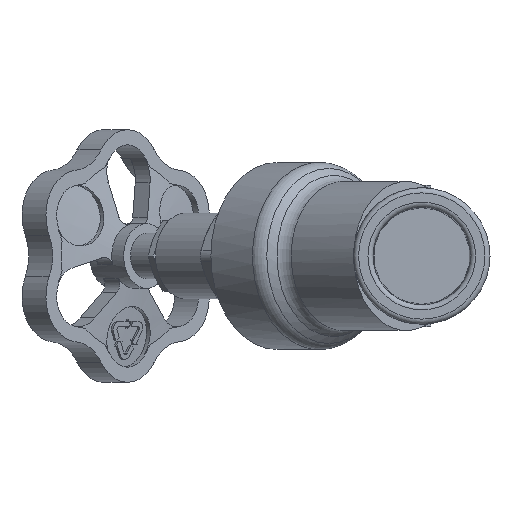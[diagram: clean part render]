
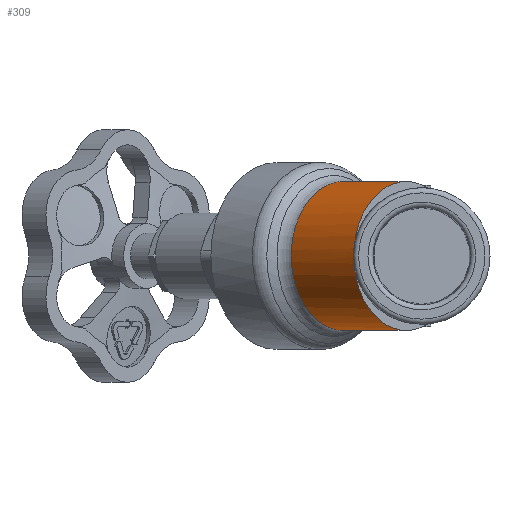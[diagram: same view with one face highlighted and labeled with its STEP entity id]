
A CAD part, left-side view. The second image highlights one B-rep face of the part: STEP entity #309.
In plain terms, the highlighted cylindrical face has radius 14.75 mm (diameter 29.5 mm), a partial arc.
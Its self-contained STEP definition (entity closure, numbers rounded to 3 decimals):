
#309=ADVANCED_FACE('',(#3080),#3082,.T.);
#3080=FACE_BOUND('',#3081,.T.);
#3081=EDGE_LOOP('',(#7523,#7524,#7525,#7526,#7527,#7528));
#3082=CYLINDRICAL_SURFACE('',#3083,14.75);
#3083=AXIS2_PLACEMENT_3D('',#3084,#3085,#3086);
#3084=CARTESIAN_POINT('',(3.041,3.041,0.));
#3085=DIRECTION('',(0.707,0.707,0.));
#3086=DIRECTION('',(0.707,-0.707,0.));
#7523=ORIENTED_EDGE('',*,*,#11304,.T.);
#7524=ORIENTED_EDGE('',*,*,#11307,.F.);
#7525=ORIENTED_EDGE('',*,*,#11308,.T.);
#7526=ORIENTED_EDGE('',*,*,#11309,.T.);
#7527=ORIENTED_EDGE('',*,*,#11274,.T.);
#7528=ORIENTED_EDGE('',*,*,#11306,.T.);
#11274=EDGE_CURVE('',#13574,#13572,#13575,.T.);
#11304=EDGE_CURVE('',#13630,#13628,#13631,.T.);
#11306=EDGE_CURVE('',#13572,#13630,#13633,.T.);
#11307=EDGE_CURVE('',#13634,#13628,#13635,.F.);
#11308=EDGE_CURVE('',#13634,#13636,#13637,.T.);
#11309=EDGE_CURVE('',#13636,#13574,#13638,.T.);
#13572=VERTEX_POINT('',#25933);
#13574=VERTEX_POINT('',#25938);
#13575=B_SPLINE_CURVE_WITH_KNOTS('',3,
(#25939,#25940,#25941,#25942,#25943,#25944,#25945,#25946,#25947,#25948,#25949,#25950,
#25951,#25952,#25953,#25954,#25955,#25956,#25957,#25958,#25959,#25960),
.UNSPECIFIED.,.F.,.F.,
(4,1,1,1,1,1,1,1,1,1,1,1,1,1,1,1,1,1,1,4),
(0.,0.05,0.099,0.148,0.196,0.244,
0.291,0.338,0.384,0.429,0.478,
0.5,0.53,0.61,0.713,0.813,
0.886,0.928,0.966,1.),
.UNSPECIFIED.);
#13628=VERTEX_POINT('',#26135);
#13630=VERTEX_POINT('',#26140);
#13631=B_SPLINE_CURVE_WITH_KNOTS('',3,
(#26141,#26142,#26143,#26144,#26145,#26146,#26147,#26148,#26149,#26150,#26151,#26152,
#26153,#26154,#26155,#26156,#26157,#26158,#26159),
.UNSPECIFIED.,.F.,.F.,
(4,1,1,1,1,1,1,1,1,1,1,1,1,1,1,1,4),
(0.,0.046,0.087,0.125,0.167,0.214,
0.263,0.316,0.373,0.435,0.504,
0.581,0.665,0.756,0.862,0.943,
1.),
.UNSPECIFIED.);
#13633=CIRCLE('',#26179,14.75);
#13634=VERTEX_POINT('',#26183);
#13635=CIRCLE('',#26184,14.75);
#13636=VERTEX_POINT('',#26188);
#13637=B_SPLINE_CURVE_WITH_KNOTS('',3,
(#26189,#26190,#26191,#26192,#26193,#26194,#26195,#26196,#26197,#26198,#26199,#26200,
#26201,#26202,#26203,#26204,#26205,#26206,#26207,#26208,#26209,#26210,#26211,#26212,
#26213,#26214,#26215,#26216,#26217,#26218,#26219,#26220,#26221),
.UNSPECIFIED.,.F.,.F.,
(4,1,1,1,1,1,1,1,1,1,1,1,1,1,1,1,1,3,1,1,1,1,1,1,1,1,1,1,4),
(0.,0.121,0.264,0.402,0.511,0.57,
0.625,0.68,0.709,0.736,0.757,
0.779,0.8,0.82,0.84,0.863,
0.882,0.898,0.904,0.909,0.922,
0.934,0.935,0.948,0.959,0.97,
0.981,0.993,1.),
.UNSPECIFIED.);
#13638=CIRCLE('',#26222,14.75);
#25933=CARTESIAN_POINT('',(-7.335,13.416,1.502));
#25938=CARTESIAN_POINT('',(-7.335,13.416,-1.502));
#25939=CARTESIAN_POINT('',(-7.335,13.416,-1.502));
#25940=CARTESIAN_POINT('',(-7.337,13.422,-1.453));
#25941=CARTESIAN_POINT('',(-7.34,13.432,-1.354));
#25942=CARTESIAN_POINT('',(-7.344,13.446,-1.207));
#25943=CARTESIAN_POINT('',(-7.347,13.459,-1.06));
#25944=CARTESIAN_POINT('',(-7.351,13.469,-0.914));
#25945=CARTESIAN_POINT('',(-7.353,13.478,-0.771));
#25946=CARTESIAN_POINT('',(-7.355,13.486,-0.628));
#25947=CARTESIAN_POINT('',(-7.357,13.491,-0.488));
#25948=CARTESIAN_POINT('',(-7.358,13.496,-0.35));
#25949=CARTESIAN_POINT('',(-7.359,13.499,-0.21));
#25950=CARTESIAN_POINT('',(-7.36,13.5,-0.093));
#25951=CARTESIAN_POINT('',(-7.36,13.5,0.008));
#25952=CARTESIAN_POINT('',(-7.36,13.5,0.141));
#25953=CARTESIAN_POINT('',(-7.359,13.496,0.355));
#25954=CARTESIAN_POINT('',(-7.356,13.486,0.639));
#25955=CARTESIAN_POINT('',(-7.351,13.47,0.915));
#25956=CARTESIAN_POINT('',(-7.346,13.453,1.13));
#25957=CARTESIAN_POINT('',(-7.342,13.439,1.283));
#25958=CARTESIAN_POINT('',(-7.338,13.428,1.397));
#25959=CARTESIAN_POINT('',(-7.336,13.42,1.469));
#25960=CARTESIAN_POINT('',(-7.335,13.416,1.502));
#26135=CARTESIAN_POINT('',(22.185,8.635,11.215));
#26140=CARTESIAN_POINT('',(7.22,-1.139,13.514));
#26141=CARTESIAN_POINT('',(7.22,-1.139,13.514));
#26142=CARTESIAN_POINT('',(7.384,-0.905,13.536));
#26143=CARTESIAN_POINT('',(7.712,-0.481,13.565));
#26144=CARTESIAN_POINT('',(8.227,0.089,13.581));
#26145=CARTESIAN_POINT('',(8.755,0.608,13.579));
#26146=CARTESIAN_POINT('',(9.337,1.126,13.559));
#26147=CARTESIAN_POINT('',(9.993,1.658,13.521));
#26148=CARTESIAN_POINT('',(10.721,2.201,13.464));
#26149=CARTESIAN_POINT('',(11.51,2.75,13.387));
#26150=CARTESIAN_POINT('',(12.38,3.32,13.287));
#26151=CARTESIAN_POINT('',(13.345,3.917,13.159));
#26152=CARTESIAN_POINT('',(14.423,4.554,12.997));
#26153=CARTESIAN_POINT('',(15.624,5.234,12.793));
#26154=CARTESIAN_POINT('',(16.946,5.955,12.54));
#26155=CARTESIAN_POINT('',(18.423,6.735,12.222));
#26156=CARTESIAN_POINT('',(19.884,7.485,11.867));
#26157=CARTESIAN_POINT('',(21.164,8.129,11.519));
#26158=CARTESIAN_POINT('',(21.887,8.488,11.305));
#26159=CARTESIAN_POINT('',(22.185,8.635,11.215));
#26179=AXIS2_PLACEMENT_3D('',#26180,#26181,#26182);
#26180=CARTESIAN_POINT('',(3.041,3.041,0.));
#26181=DIRECTION('',(0.707,0.707,0.));
#26182=DIRECTION('',(-0.703,0.703,0.102));
#26183=CARTESIAN_POINT('',(22.185,8.635,-11.215));
#26184=AXIS2_PLACEMENT_3D('',#26185,#26186,#26187);
#26185=CARTESIAN_POINT('',(15.41,15.41,0.));
#26186=DIRECTION('',(-0.707,-0.707,0.));
#26187=DIRECTION('',(0.459,-0.459,0.76));
#26188=CARTESIAN_POINT('',(7.22,-1.139,-13.514));
#26189=CARTESIAN_POINT('',(22.185,8.635,-11.215));
#26190=CARTESIAN_POINT('',(21.552,8.322,-11.408));
#26191=CARTESIAN_POINT('',(20.166,7.63,-11.801));
#26192=CARTESIAN_POINT('',(18.049,6.543,-12.314));
#26193=CARTESIAN_POINT('',(15.998,5.445,-12.73));
#26194=CARTESIAN_POINT('',(14.396,4.541,-13.002));
#26195=CARTESIAN_POINT('',(13.239,3.852,-13.173));
#26196=CARTESIAN_POINT('',(12.372,3.313,-13.287));
#26197=CARTESIAN_POINT('',(11.669,2.855,-13.369));
#26198=CARTESIAN_POINT('',(11.115,2.476,-13.426));
#26199=CARTESIAN_POINT('',(10.729,2.202,-13.461));
#26200=CARTESIAN_POINT('',(10.386,1.95,-13.49));
#26201=CARTESIAN_POINT('',(10.074,1.714,-13.514));
#26202=CARTESIAN_POINT('',(9.774,1.479,-13.534));
#26203=CARTESIAN_POINT('',(9.482,1.241,-13.55));
#26204=CARTESIAN_POINT('',(9.188,0.991,-13.564));
#26205=CARTESIAN_POINT('',(8.903,0.738,-13.573));
#26206=CARTESIAN_POINT('',(8.644,0.497,-13.578));
#26207=CARTESIAN_POINT('',(8.489,0.345,-13.579));
#26208=CARTESIAN_POINT('',(8.42,0.276,-13.579));
#26209=CARTESIAN_POINT('',(8.396,0.251,-13.579));
#26210=CARTESIAN_POINT('',(8.347,0.202,-13.579));
#26211=CARTESIAN_POINT('',(8.246,0.099,-13.579));
#26212=CARTESIAN_POINT('',(8.12,-0.034,-13.577));
#26213=CARTESIAN_POINT('',(8.014,-0.15,-13.574));
#26214=CARTESIAN_POINT('',(7.908,-0.268,-13.57));
#26215=CARTESIAN_POINT('',(7.807,-0.383,-13.566));
#26216=CARTESIAN_POINT('',(7.67,-0.546,-13.558));
#26217=CARTESIAN_POINT('',(7.542,-0.704,-13.548));
#26218=CARTESIAN_POINT('',(7.419,-0.865,-13.537));
#26219=CARTESIAN_POINT('',(7.311,-1.01,-13.526));
#26220=CARTESIAN_POINT('',(7.246,-1.102,-13.517));
#26221=CARTESIAN_POINT('',(7.22,-1.139,-13.514));
#26222=AXIS2_PLACEMENT_3D('',#26223,#26224,#26225);
#26223=CARTESIAN_POINT('',(3.041,3.041,0.));
#26224=DIRECTION('',(0.707,0.707,0.));
#26225=DIRECTION('',(0.283,-0.283,-0.916));
